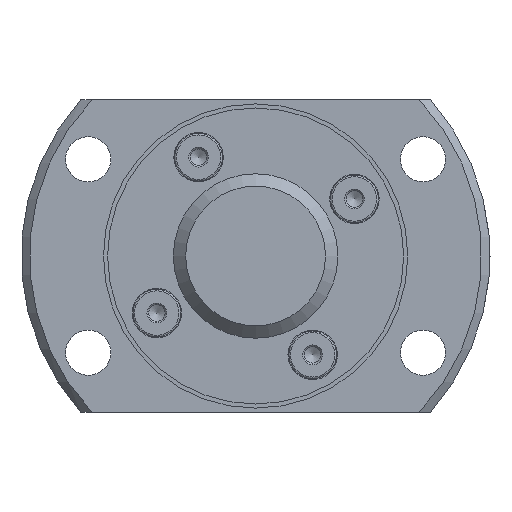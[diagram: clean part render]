
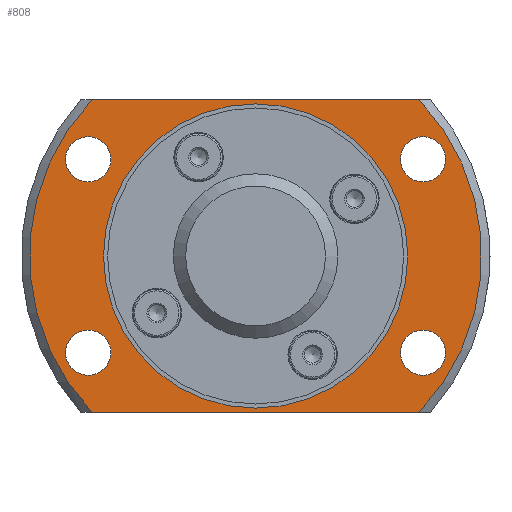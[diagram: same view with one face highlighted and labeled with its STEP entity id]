
A CAD part, left-side view. The second image highlights one B-rep face of the part: STEP entity #808.
In plain terms, the highlighted planar face has unit normal (-1, 0, 0).
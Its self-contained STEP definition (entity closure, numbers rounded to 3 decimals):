
#32=LINE('',#1445,#40);
#33=LINE('',#1446,#41);
#40=VECTOR('',#1127,1000.);
#41=VECTOR('',#1128,1000.);
#171=ORIENTED_EDGE('',*,*,#320,.T.);
#172=ORIENTED_EDGE('',*,*,#321,.F.);
#173=ORIENTED_EDGE('',*,*,#295,.F.);
#174=ORIENTED_EDGE('',*,*,#322,.F.);
#175=ORIENTED_EDGE('',*,*,#318,.F.);
#176=ORIENTED_EDGE('',*,*,#323,.T.);
#177=ORIENTED_EDGE('',*,*,#324,.T.);
#178=ORIENTED_EDGE('',*,*,#325,.T.);
#179=ORIENTED_EDGE('',*,*,#326,.T.);
#295=EDGE_CURVE('',#377,#376,#449,.T.);
#318=EDGE_CURVE('',#396,#397,#467,.T.);
#320=EDGE_CURVE('',#398,#398,#468,.T.);
#321=EDGE_CURVE('',#376,#396,#32,.T.);
#322=EDGE_CURVE('',#397,#377,#33,.T.);
#323=EDGE_CURVE('',#399,#399,#469,.T.);
#324=EDGE_CURVE('',#400,#400,#470,.T.);
#325=EDGE_CURVE('',#401,#401,#471,.T.);
#326=EDGE_CURVE('',#402,#402,#472,.T.);
#376=VERTEX_POINT('',#1368);
#377=VERTEX_POINT('',#1373);
#396=VERTEX_POINT('',#1435);
#397=VERTEX_POINT('',#1437);
#398=VERTEX_POINT('',#1444);
#399=VERTEX_POINT('',#1448);
#400=VERTEX_POINT('',#1450);
#401=VERTEX_POINT('',#1452);
#402=VERTEX_POINT('',#1454);
#449=CIRCLE('',#900,27.5);
#467=CIRCLE('',#929,27.5);
#468=CIRCLE('',#931,18.5);
#469=CIRCLE('',#932,2.75);
#470=CIRCLE('',#933,2.75);
#471=CIRCLE('',#934,2.75);
#472=CIRCLE('',#935,2.75);
#548=EDGE_LOOP('',(#171));
#549=EDGE_LOOP('',(#172,#173,#174,#175));
#550=EDGE_LOOP('',(#176));
#551=EDGE_LOOP('',(#177));
#552=EDGE_LOOP('',(#178));
#553=EDGE_LOOP('',(#179));
#678=FACE_BOUND('',#548,.T.);
#679=FACE_BOUND('',#549,.T.);
#680=FACE_BOUND('',#550,.T.);
#681=FACE_BOUND('',#551,.T.);
#682=FACE_BOUND('',#552,.T.);
#683=FACE_BOUND('',#553,.T.);
#775=PLANE('',#930);
#808=ADVANCED_FACE('',(#678,#679,#680,#681,#682,#683),#775,.T.);
#900=AXIS2_PLACEMENT_3D('',#1374,#1061,#1062);
#929=AXIS2_PLACEMENT_3D('',#1436,#1121,#1122);
#930=AXIS2_PLACEMENT_3D('',#1442,#1123,#1124);
#931=AXIS2_PLACEMENT_3D('',#1443,#1125,#1126);
#932=AXIS2_PLACEMENT_3D('',#1447,#1129,#1130);
#933=AXIS2_PLACEMENT_3D('',#1449,#1131,#1132);
#934=AXIS2_PLACEMENT_3D('',#1451,#1133,#1134);
#935=AXIS2_PLACEMENT_3D('',#1453,#1135,#1136);
#1061=DIRECTION('',(1.,0.,0.));
#1062=DIRECTION('',(0.,0.,-1.));
#1121=DIRECTION('',(1.,0.,0.));
#1122=DIRECTION('',(0.,0.,-1.));
#1123=DIRECTION('',(-1.,0.,0.));
#1124=DIRECTION('',(0.,0.,1.));
#1125=DIRECTION('',(1.,0.,0.));
#1126=DIRECTION('',(0.,0.,-1.));
#1127=DIRECTION('',(0.,1.,0.));
#1128=DIRECTION('',(0.,-1.,0.));
#1129=DIRECTION('',(1.,0.,0.));
#1130=DIRECTION('',(0.,0.,-1.));
#1131=DIRECTION('',(1.,0.,0.));
#1132=DIRECTION('',(0.,0.,-1.));
#1133=DIRECTION('',(1.,0.,0.));
#1134=DIRECTION('',(0.,0.,-1.));
#1135=DIRECTION('',(1.,0.,0.));
#1136=DIRECTION('',(0.,0.,-1.));
#1368=CARTESIAN_POINT('',(6.,-19.881,-19.));
#1373=CARTESIAN_POINT('',(6.,-19.881,19.));
#1374=CARTESIAN_POINT('',(6.,0.,0.));
#1435=CARTESIAN_POINT('',(6.,19.881,-19.));
#1436=CARTESIAN_POINT('',(6.,0.,0.));
#1437=CARTESIAN_POINT('',(6.,19.881,19.));
#1442=CARTESIAN_POINT('',(6.,27.5,0.));
#1443=CARTESIAN_POINT('',(6.,0.,0.));
#1444=CARTESIAN_POINT('',(6.,0.,-18.5));
#1445=CARTESIAN_POINT('',(6.,27.5,-19.));
#1446=CARTESIAN_POINT('',(6.,27.5,19.));
#1447=CARTESIAN_POINT('',(6.,-20.352,11.75));
#1448=CARTESIAN_POINT('',(6.,-20.352,9.));
#1449=CARTESIAN_POINT('',(6.,20.352,-11.75));
#1450=CARTESIAN_POINT('',(6.,20.352,-14.5));
#1451=CARTESIAN_POINT('',(6.,-20.352,-11.75));
#1452=CARTESIAN_POINT('',(6.,-20.352,-14.5));
#1453=CARTESIAN_POINT('',(6.,20.352,11.75));
#1454=CARTESIAN_POINT('',(6.,20.352,9.));
